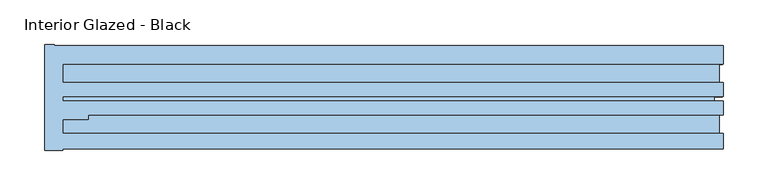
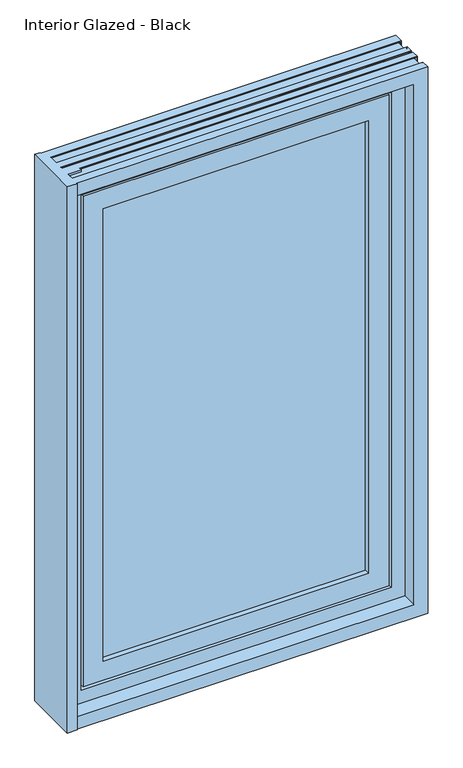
"""IFC4 building model written with IfcOpenShell, lengths in millimetres: window geometry, Universal Series - Interior Glazed - One Sided Coupler With Operable : Interior Glazed - Black."""

from ifc_helpers import new_model, si_unit, frame, origin, place, context, project, spatial, polyline, circle_curve, ellipse_curve, outline, extrude, faceted_brep, source, transform, mapped, element, save
from ifc_brep_helpers import plane_surface, revolved_surface, advanced_brep


def interior_glazed_black_34a4a2d6(model_context):
    return source(origin(), model_context, "Body", "SolidModel", [
        advanced_brep(
        [(-293.6875, -28.5625, 1981.2), (-293.6875, -28.5625, 762.0), (-304.8, -28.5625, 762.0), (-304.8, -28.5625, 1981.2), (-304.8, -147.625, 762.0), (-304.8, -147.625, 1981.2), (-284.1625, -147.625, 762.0), (-284.1625, -147.625, 1981.2), (-293.6875, -30.15, 762.0), (457.2, -30.15, 762.0), (457.2, -50.7875, 762.0), (-284.1625, -50.7875, 762.0), (-284.1625, -71.425, 762.0), (457.2, -71.425, 762.0), (457.2, -87.3, 762.0), (-284.1625, -87.3, 762.0), (-284.1625, -92.0625, 762.0), (457.2, -92.0625, 762.0), (457.2, -107.9375, 762.0), (-255.5875, -107.9375, 762.0), (-255.5875, -112.7, 762.0), (-284.1625, -112.7, 762.0), (-284.1625, -128.575, 762.0), (457.2, -128.575, 762.0), (457.2, -146.0375, 762.0), (-284.1625, -146.0375, 762.0), (-255.5875, -112.7, 766.7625), (-284.1625, -112.7, 766.7625), (428.625, -112.7, 1952.625), (-284.1625, -112.7, 1952.625), (-284.1625, -112.7, 790.575), (428.625, -112.7, 790.575), (400.05, -112.7, 1924.05), (400.05, -112.7, 819.15), (-255.5875, -112.7, 819.15), (-255.5875, -112.7, 1924.05), (-284.1625, -112.7, 1981.2), (-284.1625, -112.7, 1976.4375), (-255.5875, -112.7, 1976.4375), (-255.5875, -112.7, 1981.2), (-284.1625, -146.0375, 790.575), (428.625, -146.0375, 790.575), (428.625, -146.0375, 1952.625), (457.2, -146.0375, 1981.2), (-284.1625, -146.0375, 1981.2), (-284.1625, -146.0375, 1952.625), (-284.1625, -131.75, 766.7625), (-284.1625, -131.75, 764.778125), (-284.1625, -128.575, 763.190625), (-284.1625, -128.575, 1981.2), (-284.1625, -128.575, 1980.009375), (-284.1625, -131.75, 1978.421875), (-284.1625, -131.75, 1976.4375), (400.05, -100.0, 1924.05), (400.05, -100.0, 819.15), (-255.5875, -100.0, 819.15), (-255.5875, -100.0, 1924.05), (-255.5875, -107.9375, 763.190625), (-255.5875, -104.7625, 764.778125), (-255.5875, -104.7625, 766.7625), (-255.5875, -104.7625, 1976.4375), (-255.5875, -104.7625, 1978.421875), (-255.5875, -107.9375, 1980.009375), (-255.5875, -107.9375, 1981.2), (428.625, -100.0, 790.575), (-284.1625, -100.0, 790.575), (-284.1625, -100.0, 1952.625), (428.625, -100.0, 1952.625), (428.625, -44.4375, 1952.625), (428.625, -44.4375, 790.575), (-284.1625, -44.4375, 790.575), (-284.1625, -44.4375, 1952.625), (-284.1625, -50.7875, 763.190625), (-284.1625, -47.6125, 764.778125), (-284.1625, -47.6125, 766.7625), (-284.1625, -74.6, 766.7625), (-284.1625, -74.6, 764.778125), (-284.1625, -71.425, 763.190625), (-284.1625, -87.3, 763.5875), (-284.1625, -92.0625, 763.5875), (-284.1625, -71.425, 1981.2), (-284.1625, -71.425, 1980.009375), (-284.1625, -74.6, 1978.421875), (-284.1625, -74.6, 1976.4375), (-284.1625, -47.6125, 1976.4375), (-284.1625, -47.6125, 1978.421875), (-284.1625, -50.7875, 1980.009375), (-284.1625, -50.7875, 1981.2), (-284.1625, -92.0625, 1981.2), (-284.1625, -92.0625, 1979.6125), (-284.1625, -87.3, 1979.6125), (-284.1625, -87.3, 1981.2), (438.15, -44.4375, 781.05), (-293.6875, -44.4375, 781.05), (-293.6875, -44.4375, 1962.15), (438.15, -44.4375, 1962.15), (452.4375, -131.75, 766.7625), (452.4375, -104.7625, 766.7625), (438.15, -30.15, 1962.15), (-293.6875, -30.15, 1962.15), (-293.6875, -30.15, 1981.2), (457.2, -30.15, 1981.2), (-293.6875, -30.15, 781.05), (438.15, -30.15, 781.05), (457.2, -50.7875, 1981.2), (457.2, -128.575, 1981.2), (456.009375, -71.425, 1980.009375), (457.2, -71.425, 1981.2), (456.009375, -71.425, 763.190625), (454.421875, -74.6, 764.778125), (452.4375, -74.6, 1976.4375), (454.421875, -74.6, 1978.421875), (452.4375, -74.6, 766.7625), (452.4375, -47.6125, 766.7625), (454.421875, -47.6125, 1978.421875), (452.4375, -47.6125, 1976.4375), (454.421875, -47.6125, 764.778125), (456.009375, -50.7875, 763.190625), (456.009375, -50.7875, 1980.009375), (455.6125, -92.0625, 1979.6125), (457.2, -92.0625, 1981.2), (455.6125, -92.0625, 763.5875), (455.6125, -87.3, 763.5875), (457.2, -87.3, 1981.2), (455.6125, -87.3, 1979.6125), (454.421875, -104.7625, 1978.421875), (452.4375, -104.7625, 1976.4375), (454.421875, -104.7625, 764.778125), (456.009375, -107.9375, 763.190625), (457.2, -107.9375, 1981.2), (456.009375, -107.9375, 1980.009375), (456.009375, -128.575, 1980.009375), (456.009375, -128.575, 763.190625), (454.421875, -131.75, 764.778125), (452.4375, -131.75, 1976.4375), (454.421875, -131.75, 1978.421875)],
        [
            (0, 1),
            (1, 2),
            (2, 3),
            (3, 0),
            (2, 4),
            (4, 5),
            (5, 3),
            (4, 6),
            (6, 7),
            (7, 5),
            (1, 8),
            (8, 9),
            (9, 10),
            (10, 11),
            (11, 12),
            (12, 13),
            (13, 14),
            (14, 15),
            (15, 16),
            (16, 17),
            (17, 18),
            (18, 19),
            (19, 20),
            (20, 21),
            (21, 22),
            (22, 23),
            (23, 24),
            (24, 25),
            (25, 6),
            (20, 26),
            (26, 27),
            (27, 21),
            (28, 29),
            (29, 30),
            (30, 31),
            (31, 28),
            (32, 33),
            (33, 34),
            (34, 35),
            (35, 32),
            (36, 37),
            (37, 38),
            (38, 39),
            (39, 36),
            (30, 40),
            (40, 41),
            (41, 31),
            (41, 42),
            (42, 28),
            (43, 44),
            (44, 45),
            (45, 42),
            (40, 25),
            (24, 43),
            (29, 45),
            (44, 7),
            (27, 46),
            (46, 47),
            (47, 48),
            (48, 22),
            (49, 50),
            (50, 51),
            (51, 52),
            (52, 37),
            (36, 49),
            (32, 53),
            (53, 54),
            (54, 33),
            (54, 55),
            (55, 34),
            (55, 56),
            (56, 35),
            (19, 57),
            (57, 58),
            (58, 59),
            (59, 26),
            (38, 60),
            (60, 61),
            (61, 62),
            (62, 63),
            (63, 39),
            (64, 65),
            (65, 66),
            (66, 67),
            (67, 64),
            (53, 56),
            (67, 68),
            (68, 69),
            (69, 64),
            (69, 70),
            (70, 65),
            (70, 71),
            (71, 66),
            (11, 72),
            (72, 73),
            (73, 74),
            (74, 75),
            (75, 76),
            (76, 77),
            (77, 12),
            (15, 78),
            (78, 79, circle_curve(frame((-284.1625, -89.68125, 767.711946), z_axis=(1.0, 0.0, 0.0), x_axis=(0.0, 1.0, 0.0)), 4.7625)),
            (79, 16),
            (80, 81),
            (81, 82),
            (82, 83),
            (83, 84),
            (84, 85),
            (85, 86),
            (86, 87),
            (87, 80),
            (88, 89),
            (89, 90, circle_curve(frame((-284.1625, -89.68125, 1975.488054), z_axis=(1.0, 0.0, 0.0), x_axis=(0.0, 1.0, 0.0)), 4.7625)),
            (90, 91),
            (91, 88),
            (92, 93),
            (93, 94),
            (94, 95),
            (95, 92),
            (68, 71),
            (96, 46),
            (59, 97),
            (97, 96),
            (98, 99),
            (99, 100),
            (100, 101),
            (101, 9),
            (8, 102),
            (102, 103),
            (103, 98),
            (103, 92),
            (95, 98),
            (102, 93),
            (0, 100),
            (99, 94),
            (101, 104),
            (104, 10),
            (23, 105),
            (105, 43),
            (106, 81),
            (80, 107),
            (107, 13),
            (77, 108),
            (108, 106),
            (76, 109),
            (109, 108),
            (110, 83),
            (82, 111),
            (111, 109),
            (75, 112),
            (112, 110),
            (74, 113),
            (113, 112),
            (114, 85),
            (84, 115),
            (115, 113),
            (73, 116),
            (116, 114),
            (72, 117),
            (117, 116),
            (104, 87),
            (86, 118),
            (118, 117),
            (119, 89),
            (88, 120),
            (120, 17),
            (79, 121),
            (121, 119),
            (78, 122),
            (122, 121, ellipse_curve(frame((451.488054, -89.68125, 767.711946), z_axis=(0.7071067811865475, 0.0, 0.7071067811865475), x_axis=(-0.7071067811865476, 0.0, 0.7071067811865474)), 6.7351921, 4.7625)),
            (123, 91),
            (90, 124),
            (124, 122),
            (14, 123),
            (125, 61),
            (60, 126),
            (126, 97),
            (58, 127),
            (127, 125),
            (57, 128),
            (128, 127),
            (129, 63),
            (62, 130),
            (130, 128),
            (18, 129),
            (131, 50),
            (49, 105),
            (48, 132),
            (132, 131),
            (47, 133),
            (133, 132),
            (134, 52),
            (51, 135),
            (135, 133),
            (96, 134),
            (118, 114),
            (115, 110),
            (111, 106),
            (107, 123),
            (124, 119, ellipse_curve(frame((451.488054, -89.68125, 1975.488054), z_axis=(-0.7071067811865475, 0.0, 0.7071067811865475), x_axis=(-0.7071067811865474, 0.0, -0.7071067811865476)), 6.7351921, 4.7625)),
            (120, 129),
            (130, 125),
            (126, 134),
            (135, 131),
        ],
        [
            plane_surface(frame((-304.8, -28.5625, 1981.2), z_axis=(0.0, 1.0, 0.0), x_axis=(0.0, 0.0, -1.0))),
            plane_surface(frame((-304.8, -100.0, 1981.2), z_axis=(-1.0, 0.0, 0.0), x_axis=(0.0, 1.0, 0.0))),
            plane_surface(frame((-284.1625, -147.625, 1981.2), z_axis=(0.0, -1.0, 0.0), x_axis=(0.0, 0.0, -1.0))),
            plane_surface(frame((457.2, -30.15, 762.0), z_axis=(0.0, 0.0, -1.0), x_axis=(-1.0, 0.0, 0.0))),
            plane_surface(frame((-304.8, -112.7, 1952.625), z_axis=(0.0, -1.0, 0.0), x_axis=(1.0, 0.0, 0.0))),
            plane_surface(frame((428.625, -146.0375, 790.575), z_axis=(0.0, 0.0, 1.0), x_axis=(-1.0, 0.0, 0.0))),
            plane_surface(frame((428.625, -146.0375, 1952.625), z_axis=(-1.0, 0.0, 0.0), x_axis=(0.0, 0.0, -1.0))),
            plane_surface(frame((-304.8, -146.0375, 1981.2), z_axis=(0.0, -1.0, 0.0), x_axis=(1.0, 0.0, 0.0))),
            plane_surface(frame((-284.1625, -112.7, 1981.2), z_axis=(1.0, 0.0, 0.0), x_axis=(0.0, 0.0, -1.0))),
            plane_surface(frame((400.05, -112.7, 1924.05), z_axis=(-1.0, 0.0, 0.0), x_axis=(0.0, 0.0, -1.0))),
            plane_surface(frame((400.05, -112.7, 819.15), z_axis=(0.0, 0.0, 1.0), x_axis=(-1.0, 0.0, 0.0))),
            plane_surface(frame((-255.5875, -100.0, 1981.2), z_axis=(1.0, 0.0, 0.0), x_axis=(0.0, 0.0, -1.0))),
            plane_surface(frame((-304.8, -100.0, 1924.05), z_axis=(0.0, 1.0, 0.0), x_axis=(1.0, 0.0, 0.0))),
            plane_surface(frame((428.625, -100.0, 1952.625), z_axis=(-1.0, 0.0, 0.0), x_axis=(0.0, 0.0, -1.0))),
            plane_surface(frame((428.625, -100.0, 790.575), z_axis=(0.0, 0.0, 1.0), x_axis=(-1.0, 0.0, 0.0))),
            plane_surface(frame((-284.1625, -44.4375, 1981.2), z_axis=(1.0, 0.0, 0.0), x_axis=(0.0, 0.0, -1.0))),
            plane_surface(frame((-304.8, -44.4375, 1952.625), z_axis=(0.0, 1.0, 0.0), x_axis=(1.0, 0.0, 0.0))),
            plane_surface(frame((452.4375, -104.7625, 766.7625), z_axis=(0.0, 0.0, -1.0), x_axis=(-1.0, 0.0, 0.0))),
            plane_surface(frame((-304.8, -30.15, 1962.15), z_axis=(0.0, 1.0, 0.0), x_axis=(1.0, 0.0, 0.0))),
            plane_surface(frame((438.15, -44.4375, 1962.15), z_axis=(-1.0, 0.0, 0.0), x_axis=(0.0, 0.0, -1.0))),
            plane_surface(frame((438.15, -44.4375, 781.05), z_axis=(0.0, 0.0, 1.0), x_axis=(-1.0, 0.0, 0.0))),
            plane_surface(frame((-293.6875, -28.5625, 1981.2), z_axis=(1.0, 0.0, 0.0), x_axis=(0.0, 0.0, -1.0))),
            plane_surface(frame((457.2, -30.15, 1981.2), z_axis=(1.0, 0.0, 0.0), x_axis=(0.0, 0.0, -1.0))),
            plane_surface(frame((457.2, -128.575, 1981.2), z_axis=(1.0, 0.0, 0.0), x_axis=(0.0, 0.0, -1.0))),
            plane_surface(frame((-304.8, -71.425, 1980.009375), z_axis=(0.0, 1.0, 0.0), x_axis=(1.0, 0.0, 0.0))),
            plane_surface(frame((454.421875, -74.6, 764.778125), z_axis=(0.0, 0.4472135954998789, 0.8944271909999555), x_axis=(-1.0, 0.0, 0.0))),
            plane_surface(frame((-304.8, -74.6, 1976.4375), z_axis=(0.0, 1.0, 0.0), x_axis=(1.0, 0.0, 0.0))),
            plane_surface(frame((452.4375, -47.6125, 766.7625), z_axis=(0.0, 0.0, -1.0), x_axis=(-1.0, 0.0, 0.0))),
            plane_surface(frame((-304.8, -47.6125, 1978.421875), z_axis=(0.0, -1.0, 0.0), x_axis=(1.0, 0.0, 0.0))),
            plane_surface(frame((456.009375, -50.7875, 763.190625), z_axis=(0.0, -0.44721359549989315, 0.8944271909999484), x_axis=(-1.0, 0.0, 0.0))),
            plane_surface(frame((-304.8, -50.7875, 1981.2), z_axis=(0.0, -1.0, 0.0), x_axis=(1.0, 0.0, 0.0))),
            plane_surface(frame((-304.8, -92.0625, 1979.6125), z_axis=(0.0, 1.0, 0.0), x_axis=(1.0, 0.0, 0.0))),
            revolved_surface(polyline([(-284.16249999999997, -84.91875, 767.711946), (456.25055400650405, -84.91875, 767.711946)]), (457.2, -89.68125, 767.711946), (-1.0, 0.0, 0.0)),
            plane_surface(frame((-304.8, -87.3, 1981.2), z_axis=(0.0, -1.0, 0.0), x_axis=(1.0, 0.0, 0.0))),
            plane_surface(frame((-304.8, -104.7625, 1978.421875), z_axis=(0.0, -1.0, 0.0), x_axis=(1.0, 0.0, 0.0))),
            plane_surface(frame((456.009375, -107.9375, 763.190625), z_axis=(0.0, -0.44721359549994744, 0.8944271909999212), x_axis=(-1.0, 0.0, 0.0))),
            plane_surface(frame((-304.8, -107.9375, 1981.2), z_axis=(0.0, -1.0, 0.0), x_axis=(1.0, 0.0, 0.0))),
            plane_surface(frame((-304.8, -128.575, 1980.009375), z_axis=(0.0, 1.0, 0.0), x_axis=(1.0, 0.0, 0.0))),
            plane_surface(frame((454.421875, -131.75, 764.778125), z_axis=(0.0, 0.4472135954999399, 0.894427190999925), x_axis=(-1.0, 0.0, 0.0))),
            plane_surface(frame((-304.8, -131.75, 1976.4375), z_axis=(0.0, 1.0, 0.0), x_axis=(1.0, 0.0, 0.0))),
            plane_surface(frame((456.009375, -50.7875, 1980.009375), z_axis=(-0.8944271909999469, -0.44721359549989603, 0.0), x_axis=(0.0, 0.0, -1.0))),
            plane_surface(frame((452.4375, -47.6125, 1976.4375), z_axis=(1.0, 0.0, 0.0), x_axis=(0.0, 0.0, -1.0))),
            plane_surface(frame((454.421875, -74.6, 1978.421875), z_axis=(-0.8944271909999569, 0.447213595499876, 0.0), x_axis=(0.0, 0.0, -1.0))),
            plane_surface(frame((457.2, -71.425, 1981.2), z_axis=(1.0, 0.0, 0.0), x_axis=(0.0, 0.0, -1.0))),
            revolved_surface(polyline([(451.488054, -84.91875, 762.949445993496), (451.488054, -84.91875, 1980.250554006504)]), (451.488054, -89.68125, 1981.2), (0.0, 0.0, -1.0)),
            plane_surface(frame((457.2, -92.0625, 1981.2), z_axis=(1.0, 0.0, 0.0), x_axis=(0.0, 0.0, -1.0))),
            plane_surface(frame((456.009375, -107.9375, 1980.009375), z_axis=(-0.8944271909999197, -0.4472135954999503, 0.0), x_axis=(0.0, 0.0, -1.0))),
            plane_surface(frame((452.4375, -104.7625, 1976.4375), z_axis=(1.0, 0.0, 0.0), x_axis=(0.0, 0.0, -1.0))),
            plane_surface(frame((454.421875, -131.75, 1978.421875), z_axis=(-0.8944271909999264, 0.447213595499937, 0.0), x_axis=(0.0, 0.0, -1.0))),
            plane_surface(frame((-304.8, -146.0375, 1952.625), z_axis=(0.0, 0.0, -1.0), x_axis=(1.0, 0.0, 0.0))),
            plane_surface(frame((-304.8, -112.7, 1924.05), z_axis=(0.0, 0.0, -1.0), x_axis=(1.0, 0.0, 0.0))),
            plane_surface(frame((-304.8, -100.0, 1952.625), z_axis=(0.0, 0.0, -1.0), x_axis=(1.0, 0.0, 0.0))),
            plane_surface(frame((-304.8, -44.4375, 1962.15), z_axis=(0.0, 0.0, -1.0), x_axis=(1.0, 0.0, 0.0))),
            plane_surface(frame((-304.8, -30.15, 1981.2), z_axis=(0.0, 0.0, 1.0), x_axis=(1.0, 0.0, 0.0))),
            plane_surface(frame((-304.8, -50.7875, 1980.009375), z_axis=(0.0, -0.4472135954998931, -0.8944271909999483), x_axis=(1.0, 0.0, 0.0))),
            plane_surface(frame((-304.8, -47.6125, 1976.4375), z_axis=(0.0, 0.0, 1.0), x_axis=(1.0, 0.0, 0.0))),
            plane_surface(frame((-304.8, -74.6, 1978.421875), z_axis=(0.0, 0.4472135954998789, -0.8944271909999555), x_axis=(1.0, 0.0, 0.0))),
            revolved_surface(polyline([(456.25055400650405, -84.91875, 1975.488054), (-284.1625, -84.91875, 1975.488054)]), (-304.8, -89.68125, 1975.488054), (1.0, 0.0, 0.0)),
            plane_surface(frame((-304.8, -107.9375, 1980.009375), z_axis=(0.0, -0.44721359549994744, -0.8944271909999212), x_axis=(1.0, 0.0, 0.0))),
            plane_surface(frame((-304.8, -104.7625, 1976.4375), z_axis=(0.0, 0.0, 1.0), x_axis=(1.0, 0.0, 0.0))),
            plane_surface(frame((-304.8, -131.75, 1978.421875), z_axis=(0.0, 0.4472135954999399, -0.894427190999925), x_axis=(1.0, 0.0, 0.0))),
        ],
        [
            (0, [[1, 2, 3, 4]]),
            (1, [[5, 6, 7, -3]]),
            (2, [[-6, 8, 9, 10]]),
            (3, [[-2, 11, 12, 13, 14, 15, 16, 17, 18, 19, 20, 21, 22, 23, 24, 25, 26, 27, 28, 29, -8, -5]]),
            (4, [[30, 31, 32, -24]]),
            (4, [[33, 34, 35, 36], [37, 38, 39, 40]]),
            (4, [[41, 42, 43, 44]]),
            (5, [[45, 46, 47, -35]]),
            (6, [[48, 49, -36, -47]]),
            (7, [[50, 51, 52, -48, -46, 53, -28, 54]]),
            (8, [[-29, -53, -45, -34, 55, -51, 56, -9]]),
            (8, [[-32, 57, 58, 59, 60, -25]]),
            (8, [[61, 62, 63, 64, -41, 65]]),
            (9, [[-37, 66, 67, 68]]),
            (10, [[69, 70, -38, -68]]),
            (11, [[-70, 71, 72, -39]]),
            (11, [[73, 74, 75, 76, -30, -23]]),
            (11, [[-43, 77, 78, 79, 80, 81]]),
            (12, [[82, 83, 84, 85], [86, -71, -69, -67]]),
            (13, [[-85, 87, 88, 89]]),
            (14, [[90, 91, -82, -89]]),
            (15, [[-91, 92, 93, -83]]),
            (15, [[94, 95, 96, 97, 98, 99, 100, -15]]),
            (15, [[101, 102, 103, -19]]),
            (15, [[104, 105, 106, 107, 108, 109, 110, 111]]),
            (15, [[112, 113, 114, 115]]),
            (16, [[116, 117, 118, 119], [120, -92, -90, -88]]),
            (17, [[121, -57, -31, -76, 122, 123]]),
            (18, [[124, 125, 126, 127, -12, 128, 129, 130]]),
            (19, [[131, -119, 132, -130]]),
            (20, [[-129, 133, -116, -131]]),
            (21, [[134, -125, 135, -117, -133, -128, -11, -1]]),
            (22, [[136, 137, -13, -127]]),
            (23, [[-27, 138, 139, -54]]),
            (24, [[140, -104, 141, 142, -16, -100, 143, 144]]),
            (25, [[-143, -99, 145, 146]]),
            (26, [[147, -106, 148, 149, -145, -98, 150, 151]]),
            (27, [[-150, -97, 152, 153]]),
            (28, [[154, -108, 155, 156, -152, -96, 157, 158]]),
            (29, [[-157, -95, 159, 160]]),
            (30, [[161, -110, 162, 163, -159, -94, -14, -137]]),
            (31, [[164, -112, 165, 166, -20, -103, 167, 168]]),
            (32, [[-167, -102, 169, 170]]),
            (33, [[171, -114, 172, 173, -169, -101, -18, 174]]),
            (34, [[175, -78, 176, 177, -122, -75, 178, 179]]),
            (35, [[-178, -74, 180, 181]]),
            (36, [[182, -80, 183, 184, -180, -73, -22, 185]]),
            (37, [[186, -61, 187, -138, -26, -60, 188, 189]]),
            (38, [[-188, -59, 190, 191]]),
            (39, [[192, -63, 193, 194, -190, -58, -121, 195]]),
            (40, [[196, -158, -160, -163]]),
            (41, [[197, -151, -153, -156]]),
            (42, [[198, -144, -146, -149]]),
            (43, [[199, -174, -17, -142]]),
            (44, [[200, -168, -170, -173]]),
            (45, [[201, -185, -21, -166]]),
            (46, [[202, -179, -181, -184]]),
            (47, [[203, -195, -123, -177]]),
            (48, [[204, -189, -191, -194]]),
            (49, [[-52, -55, -33, -49]]),
            (50, [[-40, -72, -86, -66]]),
            (51, [[-93, -120, -87, -84]]),
            (52, [[-135, -124, -132, -118]]),
            (53, [[-81, -182, -201, -165, -115, -171, -199, -141, -111, -161, -136, -126, -134, -4, -7, -10, -56, -50, -139, -187, -65, -44]]),
            (54, [[-162, -109, -154, -196]]),
            (55, [[-155, -107, -147, -197]]),
            (56, [[-148, -105, -140, -198]]),
            (57, [[-172, -113, -164, -200]]),
            (58, [[-183, -79, -175, -202]]),
            (59, [[-176, -77, -42, -64, -192, -203]]),
            (60, [[-193, -62, -186, -204]]),
        ],
    ),
        faceted_brep([(-288.925, -30.15, 785.8125), (433.3875, -30.15, 785.8125), (433.3875, -44.4375, 785.8125), (-236.5375, -44.4375, 785.8125), (-236.5375, -100.0, 785.8125), (-271.4625, -100.0, 785.8125), (-271.4625, -44.4375, 785.8125), (-288.925, -44.4375, 785.8125), (-288.925, -30.15, 1957.3875), (-288.925, -44.4375, 1957.3875), (-271.4625, -44.4375, 1957.3875), (-271.4625, -100.0, 1957.3875), (-236.5375, -100.0, 803.275), (415.925, -100.0, 803.275), (415.925, -100.0, 1939.925), (-236.5375, -100.0, 1939.925), (-236.5375, -100.0, 1957.3875), (395.2875, -100.0, 823.9125), (-207.9625, -100.0, 823.9125), (-250.825, -100.0, 823.9125), (-250.825, -100.0, 1919.2875), (-207.9625, -100.0, 1919.2875), (395.2875, -100.0, 1919.2875), (-236.5375, -44.4375, 803.275), (-236.5375, -44.4375, 1939.925), (-236.5375, -44.4375, 1957.3875), (-236.5375, -44.4375, 1905.0), (-236.5375, -100.0, 1905.0), (-236.5375, -100.0, 838.2), (-236.5375, -44.4375, 838.2), (433.3875, -44.4375, 1957.3875), (415.925, -44.4375, 1939.925), (415.925, -44.4375, 803.275), (433.3875, -30.15, 1957.3875), (390.525, -30.15, 1914.525), (-246.0625, -30.15, 1914.525), (-246.0625, -30.15, 828.675), (390.525, -30.15, 828.675), (-246.0625, -44.4375, 1914.525), (-246.0625, -44.4375, 828.675), (390.525, -44.4375, 828.675), (390.525, -44.4375, 1914.525), (381.0, -44.4375, 1905.0), (381.0, -44.4375, 838.2), (381.0, -100.0, 1905.0), (381.0, -100.0, 838.2), (352.425, -100.0, 1876.425), (-207.9625, -100.0, 1876.425), (-207.9625, -100.0, 866.775), (352.425, -100.0, 866.775), (395.2875, -111.1125, 1919.2875), (395.2875, -111.1125, 823.9125), (-250.825, -111.1125, 823.9125), (-250.825, -111.1125, 1919.2875), (352.425, -111.1125, 1876.425), (352.425, -111.1125, 866.775), (-207.9625, -111.1125, 866.775), (-207.9625, -111.1125, 1876.425)], [[[0, 1, 2, 3, 4, 5, 6, 7]], [[8, 0, 7, 9]], [[9, 7, 6, 10]], [[10, 6, 5, 11]], [[11, 5, 4, 12, 13, 14, 15, 16], [17, 18, 19, 20, 21, 22]], [[3, 23, 12, 4]], [[16, 15, 24, 25]], [[26, 27, 28, 29]], [[30, 25, 24, 31, 32, 23, 3, 2]], [[33, 30, 2, 1]], [[8, 33, 1, 0], [34, 35, 36, 37]], [[35, 38, 39, 36]], [[37, 36, 39, 40]], [[40, 39, 38, 41], [42, 26, 29, 43]], [[44, 42, 43, 45]], [[43, 29, 28, 45]], [[37, 40, 41, 34]], [[13, 12, 23, 32]], [[45, 28, 27, 44], [46, 47, 48, 49]], [[31, 14, 13, 32]], [[22, 50, 51, 17]], [[20, 19, 52, 53]], [[52, 19, 18, 17, 51]], [[52, 51, 50, 53], [54, 55, 56, 57]], [[47, 57, 56, 48]], [[49, 48, 56, 55]], [[54, 46, 49, 55]], [[25, 30, 33, 8, 9, 10, 11, 16]], [[31, 24, 15, 14]], [[50, 22, 21, 20, 53]], [[54, 57, 47, 46]], [[27, 26, 42, 44]], [[41, 38, 35, 34]]]),
        faceted_brep([(-212.725, -71.425, 850.9), (-223.8375, -61.7941667, 850.9), (-207.48625, -61.7941667, 850.9), (-206.375, -71.425, 850.9), (-212.725, -71.425, 1898.65), (-212.725, -71.425, 1881.1875), (-246.0625, -71.425, 1881.1875), (-246.0625, -71.425, 1874.8375), (-212.725, -71.425, 1874.8375), (-212.725, -71.425, 868.3625), (-246.0625, -71.425, 868.3625), (-246.0625, -71.425, 862.0125), (-212.725, -71.425, 862.0125), (-206.375, -71.425, 862.0125), (357.1875, -71.425, 862.0125), (357.1875, -71.425, 1881.1875), (-206.375, -71.425, 1881.1875), (-206.375, -71.425, 1898.65), (-206.375, -71.425, 1874.8375), (350.8375, -71.425, 1874.8375), (350.8375, -71.425, 868.3625), (-206.375, -71.425, 868.3625), (-208.12125, -56.2908333, 1898.65), (-211.1375, -30.15, 1879.6), (-211.1375, -30.15, 863.6), (381.0, -50.7875, 838.2), (-246.0625, -50.7875, 838.2), (-230.1875, -56.2908333, 1898.65), (-236.5375, -50.7875, 1877.21875), (-236.5375, -50.7875, 865.98125), (-246.0625, -30.15, 1914.525), (390.525, -30.15, 1914.525), (390.525, -30.15, 828.675), (-246.0625, -30.15, 828.675), (355.6, -30.15, 863.6), (355.6, -30.15, 1879.6), (-236.5375, -31.7375, 863.7831731), (-246.0625, -31.7375, 863.7831731), (381.0, -50.7875, 1905.0), (-246.0625, -31.7375, 1879.4168269), (-246.0625, -50.7875, 1905.0), (-246.0625, -31.7375, 1905.0), (-246.0625, -31.7375, 1914.525), (-246.0625, -31.7375, 828.675), (-246.0625, -31.7375, 838.2), (-236.5375, -31.7375, 1879.4168269), (381.0, -31.7375, 838.2), (381.0, -31.7375, 1905.0), (390.525, -31.7375, 828.675), (390.525, -31.7375, 1914.525)], [[[0, 1, 2, 3]], [[4, 5, 6, 7, 8, 9, 10, 11, 12, 0, 3, 13, 14, 15, 16, 17], [18, 19, 20, 21]], [[2, 13, 3]], [[17, 16, 22]], [[23, 18, 21, 24]], [[25, 14, 13, 2, 1, 12, 11, 26]], [[0, 12, 1]], [[27, 5, 4]], [[8, 28, 29, 9]], [[30, 31, 32, 33], [24, 34, 35, 23]], [[9, 29, 36, 37, 10]], [[34, 24, 21, 20]], [[25, 38, 15, 14]], [[39, 7, 6, 40, 41, 42, 30, 33, 43, 44, 26, 11, 10, 37]], [[20, 19, 35, 34]], [[28, 45, 36, 29]], [[45, 39, 37, 36]], [[25, 26, 44, 46]], [[41, 47, 46, 44, 43, 48, 49, 42]], [[48, 43, 33, 32]], [[32, 31, 49, 48]], [[46, 47, 38, 25]], [[17, 22, 27, 4]], [[19, 18, 23, 35]], [[7, 39, 45, 28, 8]], [[42, 49, 31, 30]], [[40, 38, 47, 41]], [[6, 5, 27, 22, 16, 15, 38, 40]]]),
        extrude(outline(polyline([(381.0, -100.0), (-236.5375, -100.0), (-236.5375, -94.840625), (381.0, -94.840625), (381.0, -100.0)])), frame((0.0, 0.0, 838.2), z_axis=(0.0, 0.0, 1.0), x_axis=(1.0, 0.0, 0.0)), (0.0, 0.0, 1.0), 1066.8),
        extrude(outline(polyline([(381.0, -76.584375), (-236.5375, -76.584375), (-236.5375, -71.425), (381.0, -71.425), (381.0, -76.584375)])), frame((0.0, 0.0, 838.2), z_axis=(0.0, 0.0, 1.0), x_axis=(1.0, 0.0, 0.0)), (0.0, 0.0, 1.0), 1066.8),
    ])


if __name__ == "__main__":
    model = new_model("IFC4")
    model_context = context("Model", 3, world=origin())
    ifc_project = project(units=[si_unit("LENGTHUNIT", "METRE", prefix="MILLI")], contexts=[model_context])
    site = spatial("IfcSite", under=ifc_project)
    building = spatial("IfcBuilding", under=site)
    placement = place(None, origin())
    interior_glazed_black_shape = interior_glazed_black_34a4a2d6(model_context)
    element("IfcWindow", 1, ObjectType="Universal Series - Interior Glazed - One Sided Coupler With Operable : Interior Glazed - Black", at=placement, inside=building, context=model_context, shape_type="MappedRepresentation", body=[
        mapped(interior_glazed_black_shape, transform((0.0, 0.0, 0.0), x_axis=(1.0, 0.0, 0.0), y_axis=(0.0, 1.0, 0.0), z_axis=(0.0, 0.0, 1.0))),
    ])
    save(model, "model.ifc")
